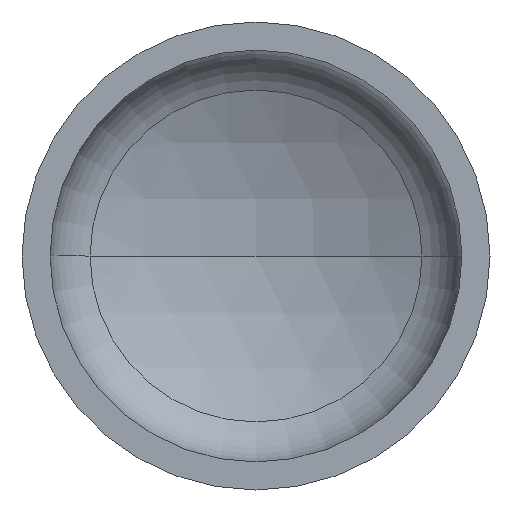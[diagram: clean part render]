
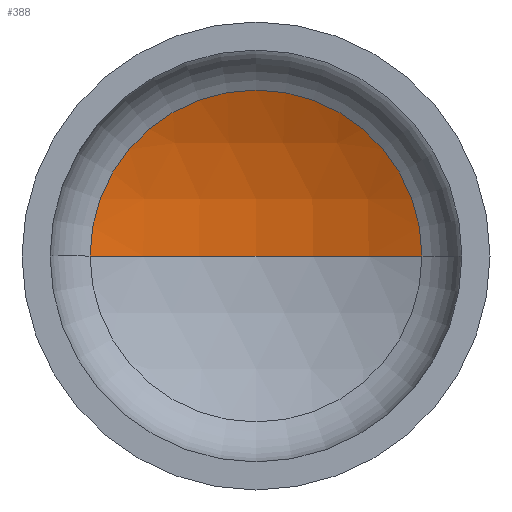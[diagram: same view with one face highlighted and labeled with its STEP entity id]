
A CAD part, front view. The second image highlights one B-rep face of the part: STEP entity #388.
In plain terms, the highlighted spherical face has radius 1200 mm.
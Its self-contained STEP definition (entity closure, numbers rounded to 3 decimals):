
#2 = AXIS2_PLACEMENT_3D ( 'NONE', #157, #287, #148 ) ;
#5 = VERTEX_POINT ( 'NONE', #266 ) ;
#9 = CARTESIAN_POINT ( 'NONE',  ( 0., -769.483, 0. ) ) ;
#12 = AXIS2_PLACEMENT_3D ( 'NONE', #411, #210, #126 ) ;
#13 = AXIS2_PLACEMENT_3D ( 'NONE', #391, #135, #253 ) ;
#17 = EDGE_LOOP ( 'NONE', ( #93, #75, #25 ) ) ;
#22 = AXIS2_PLACEMENT_3D ( 'NONE', #9, #276, #279 ) ;
#25 = ORIENTED_EDGE ( 'NONE', *, *, #364, .T. ) ;
#48 = VERTEX_POINT ( 'NONE', #251 ) ;
#75 = ORIENTED_EDGE ( 'NONE', *, *, #366, .T. ) ;
#93 = ORIENTED_EDGE ( 'NONE', *, *, #355, .F. ) ;
#105 = VERTEX_POINT ( 'NONE', #373 ) ;
#126 = DIRECTION ( 'NONE',  ( -1., 0., 0. ) ) ;
#135 = DIRECTION ( 'NONE',  ( 0., -1., 0. ) ) ;
#148 = DIRECTION ( 'NONE',  ( -1., 0., 0. ) ) ;
#157 = CARTESIAN_POINT ( 'NONE',  ( 0., -769.483, 0. ) ) ;
#210 = DIRECTION ( 'NONE',  ( 0., 0., -1. ) ) ;
#217 = CIRCLE ( 'NONE', #13, 531.959 ) ;
#251 = CARTESIAN_POINT ( 'NONE',  ( -531.959, 306.166, 0. ) ) ;
#253 = DIRECTION ( 'NONE',  ( 1., 0., 0. ) ) ;
#260 = FACE_OUTER_BOUND ( 'NONE', #17, .T. ) ;
#266 = CARTESIAN_POINT ( 'NONE',  ( 531.959, 306.166, 0. ) ) ;
#268 = SPHERICAL_SURFACE ( 'NONE', #2, 1200. ) ;
#276 = DIRECTION ( 'NONE',  ( 0., 0., 1. ) ) ;
#279 = DIRECTION ( 'NONE',  ( 1., 0., 0. ) ) ;
#287 = DIRECTION ( 'NONE',  ( 0., 0., -1. ) ) ;
#345 = CIRCLE ( 'NONE', #12, 1200. ) ;
#355 = EDGE_CURVE ( 'NONE', #105, #48, #399, .T. ) ;
#364 = EDGE_CURVE ( 'NONE', #5, #48, #217, .T. ) ;
#366 = EDGE_CURVE ( 'NONE', #105, #5, #345, .T. ) ;
#373 = CARTESIAN_POINT ( 'NONE',  ( 0., 430.517, 0. ) ) ;
#388 = ADVANCED_FACE ( 'NONE', ( #260 ), #268, .F. ) ;
#391 = CARTESIAN_POINT ( 'NONE',  ( 0., 306.166, 0. ) ) ;
#399 = CIRCLE ( 'NONE', #22, 1200. ) ;
#411 = CARTESIAN_POINT ( 'NONE',  ( 0., -769.483, 0. ) ) ;
